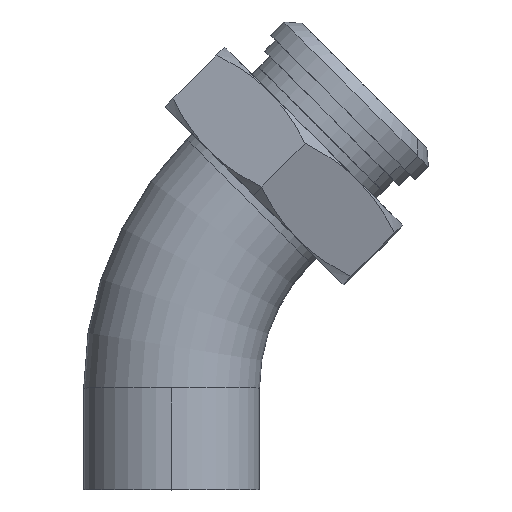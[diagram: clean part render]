
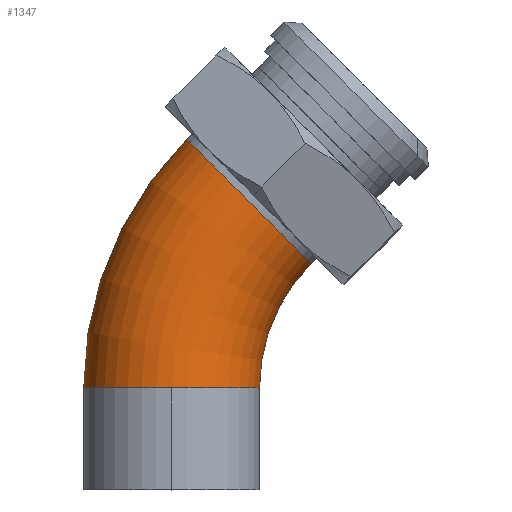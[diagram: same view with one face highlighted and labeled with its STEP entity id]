
A CAD part, top view. The second image highlights one B-rep face of the part: STEP entity #1347.
In plain terms, the highlighted toroidal (fillet/blend) face has major radius 95.25 mm and minor radius 31.75 mm.
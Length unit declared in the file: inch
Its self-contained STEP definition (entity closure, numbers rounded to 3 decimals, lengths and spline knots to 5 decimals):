
#193 = FACE_OUTER_BOUND ( 'NONE', #379, .T. ) ;
#230 = AXIS2_PLACEMENT_3D ( 'NONE', #1703, #2249, #2769 ) ;
#348 = DIRECTION ( 'NONE',  ( 0., 0., 1. ) ) ;
#379 = EDGE_LOOP ( 'NONE', ( #1336, #1699, #2566, #1957, #3335 ) ) ;
#383 = CARTESIAN_POINT ( 'NONE',  ( 0.21447, 4.98253, 0. ) ) ;
#678 = VERTEX_POINT ( 'NONE', #1061 ) ;
#787 = VERTEX_POINT ( 'NONE', #1637 ) ;
#860 = DIRECTION ( 'NONE',  ( 0., 1., 0. ) ) ;
#1011 = CIRCLE ( 'NONE', #1967, 2.5 ) ;
#1027 = VERTEX_POINT ( 'NONE', #383 ) ;
#1061 = CARTESIAN_POINT ( 'NONE',  ( 1.25, 1.447, 0. ) ) ;
#1131 = DIRECTION ( 'NONE',  ( 0., 1., 0. ) ) ;
#1138 = DIRECTION ( 'NONE',  ( 0., 0., 1. ) ) ;
#1177 = CARTESIAN_POINT ( 'NONE',  ( 1.09835, 4.09865, 0. ) ) ;
#1187 = CIRCLE ( 'NONE', #2161, 1.25 ) ;
#1336 = ORIENTED_EDGE ( 'NONE', *, *, #2171, .F. ) ;
#1347 = ADVANCED_FACE ( 'NONE', ( #193 ), #1557, .T. ) ;
#1447 = DIRECTION ( 'NONE',  ( -0.707, 0.707, 0. ) ) ;
#1557 = TOROIDAL_SURFACE ( 'NONE', #230, 3.75, 1.25 ) ;
#1637 = CARTESIAN_POINT ( 'NONE',  ( -1.25, 1.447, 0. ) ) ;
#1640 = CIRCLE ( 'NONE', #1798, 1.25 ) ;
#1699 = ORIENTED_EDGE ( 'NONE', *, *, #2105, .T. ) ;
#1703 = CARTESIAN_POINT ( 'NONE',  ( 3.75, 1.447, 0. ) ) ;
#1798 = AXIS2_PLACEMENT_3D ( 'NONE', #1177, #3018, #1447 ) ;
#1862 = AXIS2_PLACEMENT_3D ( 'NONE', #1965, #348, #2231 ) ;
#1922 = VERTEX_POINT ( 'NONE', #2599 ) ;
#1957 = ORIENTED_EDGE ( 'NONE', *, *, #2024, .T. ) ;
#1965 = CARTESIAN_POINT ( 'NONE',  ( 3.75, 1.447, 0. ) ) ;
#1967 = AXIS2_PLACEMENT_3D ( 'NONE', #2724, #1138, #2985 ) ;
#2002 = EDGE_CURVE ( 'NONE', #787, #3190, #1187, .T. ) ;
#2024 = EDGE_CURVE ( 'NONE', #3190, #678, #2429, .T. ) ;
#2053 = EDGE_CURVE ( 'NONE', #1922, #678, #1011, .T. ) ;
#2070 = AXIS2_PLACEMENT_3D ( 'NONE', #2451, #860, #2712 ) ;
#2105 = EDGE_CURVE ( 'NONE', #1027, #787, #2280, .T. ) ;
#2161 = AXIS2_PLACEMENT_3D ( 'NONE', #2719, #1131, #2978 ) ;
#2171 = EDGE_CURVE ( 'NONE', #1027, #1922, #1640, .T. ) ;
#2231 = DIRECTION ( 'NONE',  ( 1., 0., 0. ) ) ;
#2249 = DIRECTION ( 'NONE',  ( 0., 0., 1. ) ) ;
#2280 = CIRCLE ( 'NONE', #1862, 5. ) ;
#2429 = CIRCLE ( 'NONE', #2070, 1.25 ) ;
#2451 = CARTESIAN_POINT ( 'NONE',  ( 0., 1.447, 0. ) ) ;
#2520 = CARTESIAN_POINT ( 'NONE',  ( 0., 1.447, 1.25 ) ) ;
#2566 = ORIENTED_EDGE ( 'NONE', *, *, #2002, .T. ) ;
#2599 = CARTESIAN_POINT ( 'NONE',  ( 1.98223, 3.21477, 0. ) ) ;
#2712 = DIRECTION ( 'NONE',  ( -1., 0., 0. ) ) ;
#2719 = CARTESIAN_POINT ( 'NONE',  ( 0., 1.447, 0. ) ) ;
#2724 = CARTESIAN_POINT ( 'NONE',  ( 3.75, 1.447, 0. ) ) ;
#2769 = DIRECTION ( 'NONE',  ( 1., 0., 0. ) ) ;
#2978 = DIRECTION ( 'NONE',  ( -1., 0., 0. ) ) ;
#2985 = DIRECTION ( 'NONE',  ( 1., 0., 0. ) ) ;
#3018 = DIRECTION ( 'NONE',  ( 0.707, 0.707, 0. ) ) ;
#3190 = VERTEX_POINT ( 'NONE', #2520 ) ;
#3335 = ORIENTED_EDGE ( 'NONE', *, *, #2053, .F. ) ;
